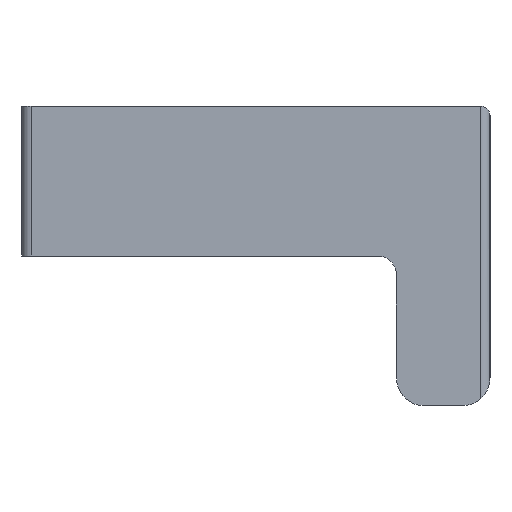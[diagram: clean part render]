
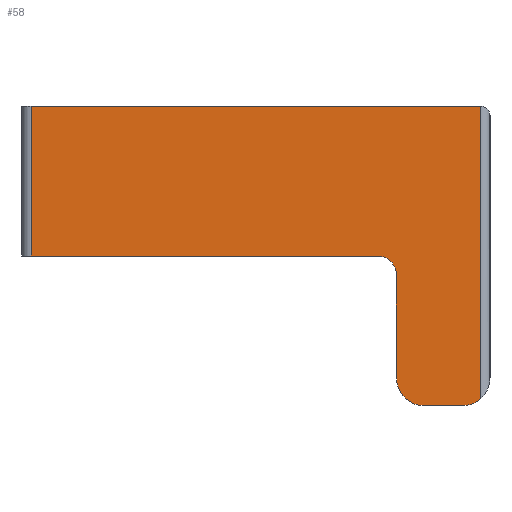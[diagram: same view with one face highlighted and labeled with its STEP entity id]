
A CAD part, left-side view. The second image highlights one B-rep face of the part: STEP entity #58.
In plain terms, the highlighted planar face has unit normal (-1, 0, 0).
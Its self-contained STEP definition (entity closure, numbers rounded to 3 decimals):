
#58 = ADVANCED_FACE( '', ( #124 ), #125, .F. );
#124 = FACE_OUTER_BOUND( '', #195, .T. );
#125 = PLANE( '', #196 );
#195 = EDGE_LOOP( '', ( #293, #294, #295, #296, #297, #298, #299, #300, #301 ) );
#196 = AXIS2_PLACEMENT_3D( '', #302, #303, #304 );
#293 = ORIENTED_EDGE( '', *, *, #435, .T. );
#294 = ORIENTED_EDGE( '', *, *, #436, .F. );
#295 = ORIENTED_EDGE( '', *, *, #405, .T. );
#296 = ORIENTED_EDGE( '', *, *, #437, .F. );
#297 = ORIENTED_EDGE( '', *, *, #438, .F. );
#298 = ORIENTED_EDGE( '', *, *, #439, .F. );
#299 = ORIENTED_EDGE( '', *, *, #440, .F. );
#300 = ORIENTED_EDGE( '', *, *, #441, .T. );
#301 = ORIENTED_EDGE( '', *, *, #416, .F. );
#302 = CARTESIAN_POINT( '', ( -7.5, -24.5, 3.5 ) );
#303 = DIRECTION( '', ( 1., 0., 0. ) );
#304 = DIRECTION( '', ( 0., 0., -1. ) );
#405 = EDGE_CURVE( '', #469, #470, #471, .T. );
#416 = EDGE_CURVE( '', #487, #489, #490, .T. );
#435 = EDGE_CURVE( '', #487, #519, #520, .T. );
#436 = EDGE_CURVE( '', #469, #519, #521, .T. );
#437 = EDGE_CURVE( '', #522, #470, #523, .T. );
#438 = EDGE_CURVE( '', #524, #522, #525, .T. );
#439 = EDGE_CURVE( '', #526, #524, #527, .T. );
#440 = EDGE_CURVE( '', #528, #526, #529, .T. );
#441 = EDGE_CURVE( '', #528, #489, #530, .F. );
#469 = VERTEX_POINT( '', #563 );
#470 = VERTEX_POINT( '', #564 );
#471 = CIRCLE( '', #565, 1. );
#487 = VERTEX_POINT( '', #584 );
#489 = VERTEX_POINT( '', #586 );
#490 = LINE( '', #587, #588 );
#519 = VERTEX_POINT( '', #625 );
#520 = LINE( '', #626, #627 );
#521 = LINE( '', #628, #629 );
#522 = VERTEX_POINT( '', #630 );
#523 = LINE( '', #631, #632 );
#524 = VERTEX_POINT( '', #633 );
#525 = CIRCLE( '', #634, 1.5 );
#526 = VERTEX_POINT( '', #635 );
#527 = LINE( '', #636, #637 );
#528 = VERTEX_POINT( '', #638 );
#529 = CIRCLE( '', #639, 1.5 );
#530 = LINE( '', #640, #641 );
#563 = CARTESIAN_POINT( '', ( -7.5, -19., -4. ) );
#564 = CARTESIAN_POINT( '', ( -7.5, -20., -5. ) );
#565 = AXIS2_PLACEMENT_3D( '', #696, #697, #698 );
#584 = CARTESIAN_POINT( '', ( -7.5, -0.5, 4. ) );
#586 = CARTESIAN_POINT( '', ( -7.5, -24.5, 4. ) );
#587 = CARTESIAN_POINT( '', ( -7.5, 0., 4. ) );
#588 = VECTOR( '', #714, 1000. );
#625 = CARTESIAN_POINT( '', ( -7.5, -0.5, -4. ) );
#626 = CARTESIAN_POINT( '', ( -7.5, -0.5, 20. ) );
#627 = VECTOR( '', #741, 1000. );
#628 = CARTESIAN_POINT( '', ( -7.5, -19., -4. ) );
#629 = VECTOR( '', #742, 1000. );
#630 = CARTESIAN_POINT( '', ( -7.5, -20., -10.5 ) );
#631 = CARTESIAN_POINT( '', ( -7.5, -20., -10.5 ) );
#632 = VECTOR( '', #743, 1000. );
#633 = CARTESIAN_POINT( '', ( -7.5, -21.5, -12. ) );
#634 = AXIS2_PLACEMENT_3D( '', #744, #745, #746 );
#635 = CARTESIAN_POINT( '', ( -7.5, -23.5, -12. ) );
#636 = CARTESIAN_POINT( '', ( -7.5, -23.5, -12. ) );
#637 = VECTOR( '', #747, 1000. );
#638 = CARTESIAN_POINT( '', ( -7.5, -24.5, -11.618 ) );
#639 = AXIS2_PLACEMENT_3D( '', #748, #749, #750 );
#640 = CARTESIAN_POINT( '', ( -7.5, -24.5, 20. ) );
#641 = VECTOR( '', #751, 1000. );
#696 = CARTESIAN_POINT( '', ( -7.5, -19., -5. ) );
#697 = DIRECTION( '', ( 1., 0., 0. ) );
#698 = DIRECTION( '', ( 0., 0., -1. ) );
#714 = DIRECTION( '', ( 0., -1., 0. ) );
#741 = DIRECTION( '', ( 0., 0., -1. ) );
#742 = DIRECTION( '', ( 0., 1., 0. ) );
#743 = DIRECTION( '', ( 0., 0., 1. ) );
#744 = CARTESIAN_POINT( '', ( -7.5, -21.5, -10.5 ) );
#745 = DIRECTION( '', ( 1., 0., 0. ) );
#746 = DIRECTION( '', ( 0., 0., -1. ) );
#747 = DIRECTION( '', ( 0., 1., 0. ) );
#748 = CARTESIAN_POINT( '', ( -7.5, -23.5, -10.5 ) );
#749 = DIRECTION( '', ( 1., 0., 0. ) );
#750 = DIRECTION( '', ( 0., 0., -1. ) );
#751 = DIRECTION( '', ( 0., 0., -1. ) );
